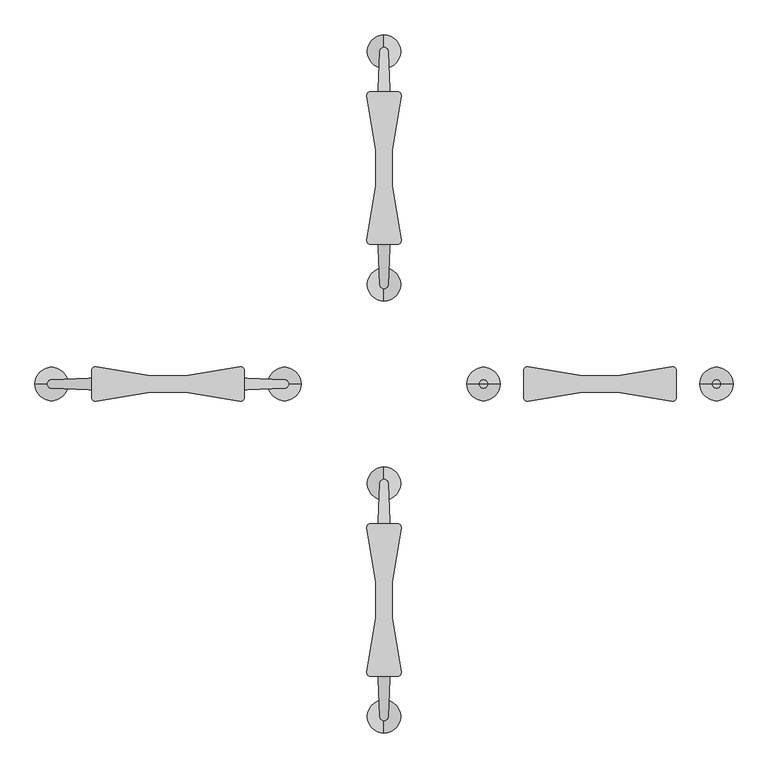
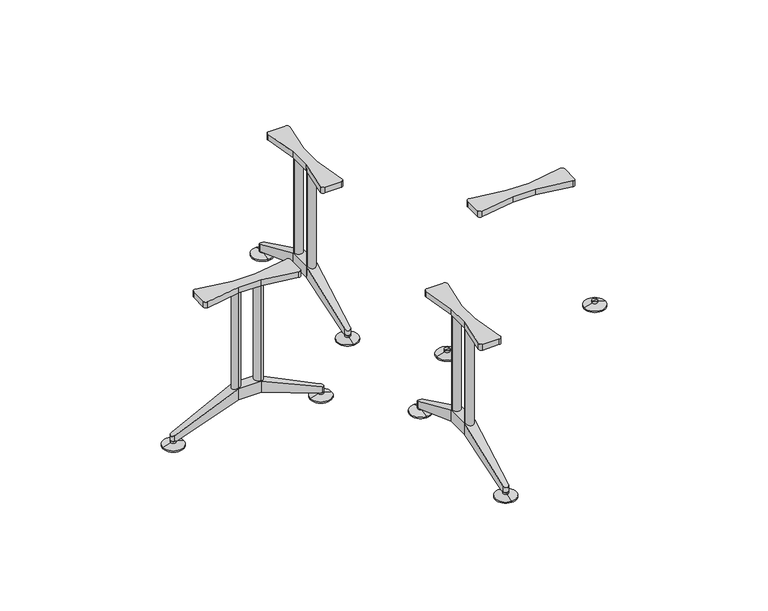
"""IFC4 building model written with IfcOpenShell, lengths in millimetres: furniture geometry, Furniture_Wilkhahn_622-45_Logon Circular Table : Logon 622/45_2200D x 730H."""

from ifc_helpers import new_model, si_unit, point, frame, frame_2d, origin, place, context, project, spatial, polyline, circle_curve, ellipse_curve, trimmed, segment, composite_curve, outline, extrude, source, transform, mapped, element, save
from ifc_brep_helpers import plane_surface, cylinder_surface, revolved_surface, advanced_brep


def furniture_99fb2e03(model_context):
    return source(origin(), model_context, "Body", "SolidModel", [
        advanced_brep(
        [(0.0, 1026.4755164, 0.0), (0.0, 1076.4755164, 0.0), (0.0, 976.4755164, 0.0), (0.0, 1076.4755164, 6.0), (0.0, 976.4755164, 6.0), (0.0, 1038.9511544, 17.0), (0.0, 1013.9998784, 17.0), (0.0, 1038.9511544, 27.0), (0.0, 1013.9998784, 27.0), (0.0, 1026.4755164, 27.0)],
        [
            (0, 1),
            (1, 2, circle_curve(frame((0.0, 1026.4755164, 0.0), z_axis=(0.0, 0.0, -1.0), x_axis=(0.0, 1.0, 0.0)), 50.0)),
            (2, 0),
            (2, 1, circle_curve(frame((0.0, 1026.4755164, 0.0), z_axis=(0.0, 0.0, -1.0), x_axis=(0.0, 1.0, 0.0)), 50.0)),
            (1, 3),
            (3, 4, circle_curve(frame((0.0, 1026.4755164, 6.0), z_axis=(0.0, 0.0, -1.0), x_axis=(0.0, 1.0, 0.0)), 50.0)),
            (4, 2),
            (4, 3, circle_curve(frame((0.0, 1026.4755164, 6.0), z_axis=(0.0, 0.0, -1.0), x_axis=(0.0, 1.0, 0.0)), 50.0)),
            (3, 5),
            (5, 6, circle_curve(frame((0.0, 1026.4755164, 17.0), z_axis=(0.0, 0.0, -1.0), x_axis=(0.0, 1.0, 0.0)), 12.475638)),
            (6, 4),
            (6, 5, circle_curve(frame((0.0, 1026.4755164, 17.0), z_axis=(0.0, 0.0, -1.0), x_axis=(0.0, 1.0, 0.0)), 12.475638)),
            (5, 7),
            (7, 8, circle_curve(frame((0.0, 1026.4755164, 27.0), z_axis=(0.0, 0.0, -1.0), x_axis=(0.0, 1.0, 0.0)), 12.475638)),
            (8, 6),
            (8, 7, circle_curve(frame((0.0, 1026.4755164, 27.0), z_axis=(0.0, 0.0, -1.0), x_axis=(0.0, 1.0, 0.0)), 12.475638)),
            (7, 9),
            (9, 8),
        ],
        [
            plane_surface(frame((0.0, 1026.4755164, 0.0), z_axis=(0.0, 0.0, -1.0), x_axis=(0.0, 1.0, 0.0))),
            cylinder_surface(frame((0.0, 1026.4755164, 27.0), z_axis=(0.0, 0.0, -1.0), x_axis=(0.0, 1.0, 0.0)), 50.0),
            revolved_surface(polyline([(0.0, 1038.9511544, 17.0), (0.0, 1076.4755164, 6.0)]), (0.0, 1026.4755164, 27.0), (0.0, 0.0, -1.0)),
            cylinder_surface(frame((0.0, 1026.4755164, 27.0), z_axis=(0.0, 0.0, -1.0), x_axis=(0.0, 1.0, 0.0)), 12.475638),
            plane_surface(frame((0.0, 1026.4755164, 27.0), z_axis=(0.0, 0.0, 1.0), x_axis=(0.0, 1.0, 0.0))),
        ],
        [
            (0, [[1, 2, 3]]),
            (0, [[-3, 4, -1]]),
            (1, [[-2, 5, 6, 7]]),
            (1, [[-4, -7, 8, -5]]),
            (2, [[-6, 9, 10, 11]]),
            (2, [[-8, -11, 12, -9]]),
            (3, [[-10, 13, 14, 15]]),
            (3, [[-12, -15, 16, -13]]),
            (4, [[-14, 17, 18]]),
            (4, [[-16, -18, -17]]),
        ],
    ),
        advanced_brep(
        [(0.0, 375.4267924, 0.0), (0.0, 275.4267924, 0.0), (0.0, 325.4267924, 0.0), (0.0, 375.4267924, 6.0), (0.0, 275.4267924, 6.0), (0.0, 337.9024304, 17.0), (0.0, 312.9511544, 17.0), (0.0, 337.9024304, 27.0), (0.0, 312.9511544, 27.0), (0.0, 325.4267924, 27.0)],
        [
            (0, 1, circle_curve(frame((0.0, 325.4267924, 0.0), z_axis=(0.0, 0.0, -1.0), x_axis=(0.0, -1.0, 0.0)), 50.0)),
            (1, 2),
            (2, 0),
            (1, 0, circle_curve(frame((0.0, 325.4267924, 0.0), z_axis=(0.0, 0.0, -1.0), x_axis=(0.0, -1.0, 0.0)), 50.0)),
            (3, 4, circle_curve(frame((0.0, 325.4267924, 6.0), z_axis=(0.0, 0.0, -1.0), x_axis=(0.0, -1.0, 0.0)), 50.0)),
            (4, 1),
            (0, 3),
            (4, 3, circle_curve(frame((0.0, 325.4267924, 6.0), z_axis=(0.0, 0.0, -1.0), x_axis=(0.0, -1.0, 0.0)), 50.0)),
            (5, 6, circle_curve(frame((0.0, 325.4267924, 17.0), z_axis=(0.0, 0.0, -1.0), x_axis=(0.0, -1.0, 0.0)), 12.475638)),
            (6, 4),
            (3, 5),
            (6, 5, circle_curve(frame((0.0, 325.4267924, 17.0), z_axis=(0.0, 0.0, -1.0), x_axis=(0.0, -1.0, 0.0)), 12.475638)),
            (7, 8, circle_curve(frame((0.0, 325.4267924, 27.0), z_axis=(0.0, 0.0, -1.0), x_axis=(0.0, -1.0, 0.0)), 12.475638)),
            (8, 6),
            (5, 7),
            (8, 7, circle_curve(frame((0.0, 325.4267924, 27.0), z_axis=(0.0, 0.0, -1.0), x_axis=(0.0, -1.0, 0.0)), 12.475638)),
            (9, 8),
            (7, 9),
        ],
        [
            plane_surface(frame((0.0, 325.4267924, 0.0), z_axis=(0.0, 0.0, -1.0), x_axis=(0.0, -1.0, 0.0))),
            cylinder_surface(frame((0.0, 325.4267924, 27.0), z_axis=(0.0, 0.0, 1.0), x_axis=(0.0, -1.0, 0.0)), 50.0),
            revolved_surface(polyline([(0.0, 275.4267924, 6.0), (0.0, 312.9511544, 17.0)]), (0.0, 325.4267924, 27.0), (0.0, 0.0, 1.0)),
            cylinder_surface(frame((0.0, 325.4267924, 27.0), z_axis=(0.0, 0.0, 1.0), x_axis=(0.0, -1.0, 0.0)), 12.475638),
            plane_surface(frame((0.0, 325.4267924, 27.0), z_axis=(0.0, 0.0, 1.0), x_axis=(0.0, -1.0, 0.0))),
        ],
        [
            (0, [[1, 2, 3]]),
            (0, [[4, -3, -2]]),
            (1, [[5, 6, -1, 7]]),
            (1, [[8, -7, -4, -6]]),
            (2, [[9, 10, -5, 11]]),
            (2, [[12, -11, -8, -10]]),
            (3, [[13, 14, -9, 15]]),
            (3, [[16, -15, -12, -14]]),
            (4, [[17, -13, 18]]),
            (4, [[-18, -16, -17]]),
        ],
    ),
        extrude(outline(composite_curve([segment(polyline([(-25.0, 728.9511544), (-51.7160071, 892.0109222)]), True, "CONTINUOUS"), segment(trimmed(circle_curve(frame_2d((-39.8739001, 893.9511544)), 12.0), [point((-51.7160071, 892.0109222))], [point((-39.8739001, 905.9511544))], False, "CARTESIAN"), True, "CONTINUOUS"), segment(polyline([(-39.8739001, 905.9511544), (39.8739001, 905.9511544)]), True, "CONTINUOUS"), segment(trimmed(circle_curve(frame_2d((39.8739001, 893.9511544)), 12.0), [point((39.8739001, 905.9511544))], [point((51.7160071, 892.0109222))], False, "CARTESIAN"), True, "CONTINUOUS"), segment(polyline([(51.7160071, 892.0109222), (25.0, 728.9511544), (25.0, 622.9511544), (51.7160071, 459.8913867)]), True, "CONTINUOUS"), segment(trimmed(circle_curve(frame_2d((39.8739001, 457.9511544)), 12.0), [point((51.7160071, 459.8913867))], [point((39.8739001, 445.9511544))], False, "CARTESIAN"), True, "CONTINUOUS"), segment(polyline([(39.8739001, 445.9511544), (-39.8739001, 445.9511544)]), True, "CONTINUOUS"), segment(trimmed(circle_curve(frame_2d((-39.8739001, 457.9511544)), 12.0), [point((-39.8739001, 445.9511544))], [point((-51.7160071, 459.8913867))], False, "CARTESIAN"), True, "CONTINUOUS"), segment(polyline([(-51.7160071, 459.8913867), (-25.0, 622.9511544), (-25.0, 728.9511544)]), True, "CONTINUOUS")], self_intersect=False)), frame((0.0, 0.0, 675.0), z_axis=(0.0, 0.0, 1.0), x_axis=(1.0, 0.0, 0.0)), (0.0, 0.0, 1.0), 29.0),
        advanced_brep(
        [(25.0, 622.9511544, 140.0), (25.0, 728.9511544, 140.0), (25.0, 728.9511544, 195.0), (25.0, 622.9511544, 195.0), (-25.0, 622.9511544, 195.0), (-25.0, 728.9511544, 195.0), (-25.0, 728.9511544, 140.0), (-25.0, 622.9511544, 140.0), (-13.4930419, 337.9024304, 27.0), (13.4930419, 337.9024304, 27.0), (12.9894205, 325.4267924, 27.0), (0.0, 312.9511544, 27.0), (-12.9894205, 325.4267924, 27.0), (-12.9894205, 325.4267924, 56.4159205), (0.0, 312.9511544, 50.6048844), (12.9894205, 325.4267924, 56.4159205), (-12.9894205, 1026.4755164, 56.4159205), (-12.9894205, 1026.4755164, 27.0), (-13.4930419, 1013.9998784, 27.0), (12.9894205, 1026.4755164, 27.0), (12.9894205, 1026.4755164, 56.4159205), (13.4930419, 1013.9998784, 27.0), (0.0, 1038.9511544, 27.0), (0.0, 1038.9511544, 50.6048844)],
        [
            (0, 1),
            (1, 2),
            (2, 3),
            (3, 0),
            (4, 5),
            (5, 6),
            (6, 7),
            (7, 4),
            (8, 9),
            (9, 10),
            (10, 11, circle_curve(frame((0.0, 325.9511544, 27.0), z_axis=(0.0, 0.0, -1.0), x_axis=(-1.0, 0.0, 0.0)), 13.0)),
            (11, 12, circle_curve(frame((0.0, 325.9511544, 27.0), z_axis=(0.0, 0.0, -1.0), x_axis=(-1.0, 0.0, 0.0)), 13.0)),
            (12, 8),
            (3, 4),
            (4, 13),
            (13, 14, ellipse_curve(frame((0.0, 325.9511544, 56.6601634), z_axis=(0.0, -0.4222333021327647, 0.9064871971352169), x_axis=(0.0, -0.906487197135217, -0.4222333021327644)), 14.341074, 13.0)),
            (14, 15, ellipse_curve(frame((0.0, 325.9511544, 56.6601634), z_axis=(0.0, -0.4222333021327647, 0.9064871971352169), x_axis=(0.0, -0.906487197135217, -0.4222333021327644)), 14.341074, 13.0)),
            (15, 3),
            (7, 0),
            (0, 9),
            (8, 7),
            (16, 17),
            (17, 18),
            (18, 6),
            (5, 16),
            (19, 20),
            (20, 2),
            (1, 21),
            (21, 19),
            (2, 5),
            (6, 1),
            (19, 22, circle_curve(frame((0.0, 1025.9511544, 27.0), z_axis=(0.0, 0.0, 1.0), x_axis=(-1.0, 0.0, 0.0)), 13.0)),
            (22, 17, circle_curve(frame((0.0, 1025.9511544, 27.0), z_axis=(0.0, 0.0, 1.0), x_axis=(-1.0, 0.0, 0.0)), 13.0)),
            (16, 23, ellipse_curve(frame((0.0, 1025.9511544, 56.6601634), z_axis=(0.0, -0.4222333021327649, -0.9064871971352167), x_axis=(0.0, 0.9064871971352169, -0.4222333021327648)), 14.341074, 13.0)),
            (23, 20, ellipse_curve(frame((0.0, 1025.9511544, 56.6601634), z_axis=(0.0, -0.4222333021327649, -0.9064871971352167), x_axis=(0.0, 0.9064871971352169, -0.4222333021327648)), 14.341074, 13.0)),
            (15, 10),
            (13, 12),
            (21, 18),
        ],
        [
            plane_surface(frame((25.0, 329.6976943, 27.0), z_axis=(1.0, 0.0, 0.0), x_axis=(0.0, 1.0, 0.0))),
            plane_surface(frame((-25.0, 329.6976943, 27.0), z_axis=(-1.0, 0.0, 0.0), x_axis=(0.0, -1.0, 0.0))),
            plane_surface(frame((-25.0, 337.9024304, 27.0), z_axis=(0.0, 0.0, -1.0), x_axis=(1.0, 0.0, 0.0))),
            plane_surface(frame((-25.0, 312.9511544, 50.6048844), z_axis=(0.0, -0.4222333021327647, 0.9064871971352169), x_axis=(1.0, 0.0, 0.0))),
            plane_surface(frame((-25.0, 622.9511544, 140.0), z_axis=(0.0, 0.3685226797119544, -0.929618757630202), x_axis=(1.0, 0.0, 0.0))),
            plane_surface(frame((-25.0, 728.9511544, 195.0), z_axis=(-0.9991861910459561, 0.04033553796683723, 0.0), x_axis=(0.0, 0.0, -1.0))),
            plane_surface(frame((12.9894205, 1026.4755164, 195.0), z_axis=(0.9991861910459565, 0.040335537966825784, 0.0), x_axis=(0.0, 0.0, -1.0))),
            plane_surface(frame((-25.0, 622.9511544, 195.0), z_axis=(0.0, 0.0, 1.0), x_axis=(1.0, 0.0, 0.0))),
            plane_surface(frame((-25.0, 728.9511544, 140.0), z_axis=(0.0, 0.0, -1.0), x_axis=(1.0, 0.0, 0.0))),
            cylinder_surface(frame((0.0, 1025.9511544, 0.0), z_axis=(0.0, 0.0, -1.0), x_axis=(-1.0, 0.0, 0.0)), 13.0),
            plane_surface(frame((25.0, 622.9511544, 195.0), z_axis=(0.9991861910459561, -0.04033553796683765, 0.0), x_axis=(0.0, 0.0, -1.0))),
            cylinder_surface(frame((0.0, 325.9511544, -14.190167), z_axis=(0.0, 0.0, -1.0), x_axis=(-1.0, 0.0, 0.0)), 13.0),
            plane_surface(frame((-12.9894205, 325.4267924, 195.0), z_axis=(-0.9991861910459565, -0.04033553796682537, 0.0), x_axis=(0.0, 0.0, -1.0))),
            plane_surface(frame((-25.0, 728.9511544, 195.0), z_axis=(0.0, 0.4222333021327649, 0.9064871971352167), x_axis=(1.0, 0.0, 0.0))),
            plane_surface(frame((-25.0, 1038.9511544, 27.0), z_axis=(0.0, 0.0, -1.0), x_axis=(1.0, 0.0, 0.0))),
            plane_surface(frame((-25.0, 1013.9998784, 27.0), z_axis=(0.0, -0.3685226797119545, -0.929618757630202), x_axis=(1.0, 0.0, 0.0))),
        ],
        [
            (0, [[1, 2, 3, 4]]),
            (1, [[5, 6, 7, 8]]),
            (2, [[9, 10, 11, 12, 13]]),
            (3, [[14, 15, 16, 17, 18]]),
            (4, [[19, 20, -9, 21]]),
            (5, [[22, 23, 24, -6, 25]]),
            (6, [[26, 27, -2, 28, 29]]),
            (7, [[-3, 30, -5, -14]]),
            (8, [[-1, -19, -7, 31]]),
            (9, [[-26, 32, 33, -22, 34, 35]]),
            (10, [[36, -10, -20, -4, -18]]),
            (11, [[-36, -17, -16, 37, -12, -11]]),
            (12, [[-37, -15, -8, -21, -13]]),
            (13, [[-30, -27, -35, -34, -25]]),
            (14, [[38, -23, -33, -32, -29]]),
            (15, [[-31, -24, -38, -28]]),
        ],
    ),
        extrude(outline(composite_curve([segment(trimmed(circle_curve(frame_2d((0.0, 728.9511544)), 20.0), [point((20.0, 728.9511544))], [point((-20.0, 728.9511544))], False, "CARTESIAN"), True, "CONTINUOUS"), segment(trimmed(circle_curve(frame_2d((0.0, 728.9511544)), 20.0), [point((-20.0, 728.9511544))], [point((20.0, 728.9511544))], False, "CARTESIAN"), True, "CONTINUOUS")], self_intersect=False)), frame((0.0, 0.0, 140.0), z_axis=(0.0, 0.0, 1.0), x_axis=(1.0, 0.0, 0.0)), (0.0, 0.0, 1.0), 535.0),
        extrude(outline(composite_curve([segment(trimmed(circle_curve(frame_2d((0.0, 622.9511544)), 20.0), [point((20.0, 622.9511544))], [point((-20.0, 622.9511544))], False, "CARTESIAN"), True, "CONTINUOUS"), segment(trimmed(circle_curve(frame_2d((0.0, 622.9511544)), 20.0), [point((-20.0, 622.9511544))], [point((20.0, 622.9511544))], False, "CARTESIAN"), True, "CONTINUOUS")], self_intersect=False)), frame((0.0, 0.0, 140.0), z_axis=(0.0, 0.0, 1.0), x_axis=(1.0, 0.0, 0.0)), (0.0, 0.0, 1.0), 535.0),
        advanced_brep(
        [(0.0, -974.5732076, 0.0), (0.0, -924.5732076, 0.0), (0.0, -1024.5732076, 0.0), (0.0, -924.5732076, 6.0), (0.0, -1024.5732076, 6.0), (0.0, -962.0975696, 17.0), (0.0, -987.0488456, 17.0), (0.0, -962.0975696, 27.0), (0.0, -987.0488456, 27.0), (0.0, -974.5732076, 27.0)],
        [
            (0, 1),
            (1, 2, circle_curve(frame((0.0, -974.5732076, 0.0), z_axis=(0.0, 0.0, -1.0), x_axis=(0.0, -1.0, 0.0)), 50.0)),
            (2, 0),
            (2, 1, circle_curve(frame((0.0, -974.5732076, 0.0), z_axis=(0.0, 0.0, -1.0), x_axis=(0.0, -1.0, 0.0)), 50.0)),
            (1, 3),
            (3, 4, circle_curve(frame((0.0, -974.5732076, 6.0), z_axis=(0.0, 0.0, -1.0), x_axis=(0.0, -1.0, 0.0)), 50.0)),
            (4, 2),
            (4, 3, circle_curve(frame((0.0, -974.5732076, 6.0), z_axis=(0.0, 0.0, -1.0), x_axis=(0.0, -1.0, 0.0)), 50.0)),
            (3, 5),
            (5, 6, circle_curve(frame((0.0, -974.5732076, 17.0), z_axis=(0.0, 0.0, -1.0), x_axis=(0.0, -1.0, 0.0)), 12.475638)),
            (6, 4),
            (6, 5, circle_curve(frame((0.0, -974.5732076, 17.0), z_axis=(0.0, 0.0, -1.0), x_axis=(0.0, -1.0, 0.0)), 12.475638)),
            (5, 7),
            (7, 8, circle_curve(frame((0.0, -974.5732076, 27.0), z_axis=(0.0, 0.0, -1.0), x_axis=(0.0, -1.0, 0.0)), 12.475638)),
            (8, 6),
            (8, 7, circle_curve(frame((0.0, -974.5732076, 27.0), z_axis=(0.0, 0.0, -1.0), x_axis=(0.0, -1.0, 0.0)), 12.475638)),
            (7, 9),
            (9, 8),
        ],
        [
            plane_surface(frame((0.0, -974.5732076, 0.0), z_axis=(0.0, 0.0, -1.0), x_axis=(0.0, -1.0, 0.0))),
            cylinder_surface(frame((0.0, -974.5732076, 27.0), z_axis=(0.0, 0.0, -1.0), x_axis=(0.0, -1.0, 0.0)), 50.0),
            revolved_surface(polyline([(0.0, -987.0488456, 17.0), (0.0, -1024.5732076, 6.0)]), (0.0, -974.5732076, 27.0), (0.0, 0.0, -1.0)),
            cylinder_surface(frame((0.0, -974.5732076, 27.0), z_axis=(0.0, 0.0, -1.0), x_axis=(0.0, -1.0, 0.0)), 12.475638),
            plane_surface(frame((0.0, -974.5732076, 27.0), z_axis=(0.0, 0.0, 1.0), x_axis=(0.0, -1.0, 0.0))),
        ],
        [
            (0, [[1, 2, 3]]),
            (0, [[-3, 4, -1]]),
            (1, [[5, 6, 7, -2]]),
            (1, [[-7, 8, -5, -4]]),
            (2, [[9, 10, 11, -6]]),
            (2, [[-11, 12, -9, -8]]),
            (3, [[13, 14, 15, -10]]),
            (3, [[-15, 16, -13, -12]]),
            (4, [[17, 18, -14]]),
            (4, [[-18, -17, -16]]),
        ],
    ),
        advanced_brep(
        [(0.0, -323.5244836, 0.0), (0.0, -273.5244836, 0.0), (0.0, -223.5244836, 0.0), (0.0, -323.5244836, 6.0), (0.0, -223.5244836, 6.0), (0.0, -286.0001216, 17.0), (0.0, -261.0488456, 17.0), (0.0, -286.0001216, 27.0), (0.0, -261.0488456, 27.0), (0.0, -273.5244836, 27.0)],
        [
            (0, 1),
            (1, 2),
            (2, 0, circle_curve(frame((0.0, -273.5244836, 0.0), z_axis=(0.0, 0.0, -1.0), x_axis=(0.0, 1.0, 0.0)), 50.0)),
            (0, 2, circle_curve(frame((0.0, -273.5244836, 0.0), z_axis=(0.0, 0.0, -1.0), x_axis=(0.0, 1.0, 0.0)), 50.0)),
            (3, 0),
            (2, 4),
            (4, 3, circle_curve(frame((0.0, -273.5244836, 6.0), z_axis=(0.0, 0.0, -1.0), x_axis=(0.0, 1.0, 0.0)), 50.0)),
            (3, 4, circle_curve(frame((0.0, -273.5244836, 6.0), z_axis=(0.0, 0.0, -1.0), x_axis=(0.0, 1.0, 0.0)), 50.0)),
            (5, 3),
            (4, 6),
            (6, 5, circle_curve(frame((0.0, -273.5244836, 17.0), z_axis=(0.0, 0.0, -1.0), x_axis=(0.0, 1.0, 0.0)), 12.475638)),
            (5, 6, circle_curve(frame((0.0, -273.5244836, 17.0), z_axis=(0.0, 0.0, -1.0), x_axis=(0.0, 1.0, 0.0)), 12.475638)),
            (7, 5),
            (6, 8),
            (8, 7, circle_curve(frame((0.0, -273.5244836, 27.0), z_axis=(0.0, 0.0, -1.0), x_axis=(0.0, 1.0, 0.0)), 12.475638)),
            (7, 8, circle_curve(frame((0.0, -273.5244836, 27.0), z_axis=(0.0, 0.0, -1.0), x_axis=(0.0, 1.0, 0.0)), 12.475638)),
            (9, 7),
            (8, 9),
        ],
        [
            plane_surface(frame((0.0, -273.5244836, 0.0), z_axis=(0.0, 0.0, -1.0), x_axis=(0.0, 1.0, 0.0))),
            cylinder_surface(frame((0.0, -273.5244836, 27.0), z_axis=(0.0, 0.0, 1.0), x_axis=(0.0, 1.0, 0.0)), 50.0),
            revolved_surface(polyline([(0.0, -223.5244836, 6.0), (0.0, -261.0488456, 17.0)]), (0.0, -273.5244836, 27.0), (0.0, 0.0, 1.0)),
            cylinder_surface(frame((0.0, -273.5244836, 27.0), z_axis=(0.0, 0.0, 1.0), x_axis=(0.0, 1.0, 0.0)), 12.475638),
            plane_surface(frame((0.0, -273.5244836, 27.0), z_axis=(0.0, 0.0, 1.0), x_axis=(0.0, 1.0, 0.0))),
        ],
        [
            (0, [[1, 2, 3]]),
            (0, [[-2, -1, 4]]),
            (1, [[5, -3, 6, 7]]),
            (1, [[-6, -4, -5, 8]]),
            (2, [[9, -7, 10, 11]]),
            (2, [[-10, -8, -9, 12]]),
            (3, [[13, -11, 14, 15]]),
            (3, [[-14, -12, -13, 16]]),
            (4, [[17, -15, 18]]),
            (4, [[-18, -16, -17]]),
        ],
    ),
        extrude(outline(composite_curve([segment(polyline([(-25.0, -677.0488456), (-25.0, -571.0488456), (-51.7160071, -407.9890778)]), True, "CONTINUOUS"), segment(trimmed(circle_curve(frame_2d((-39.8739001, -406.0488456)), 12.0), [point((-51.7160071, -407.9890778))], [point((-39.8739001, -394.0488456))], False, "CARTESIAN"), True, "CONTINUOUS"), segment(polyline([(-39.8739001, -394.0488456), (39.8739001, -394.0488456)]), True, "CONTINUOUS"), segment(trimmed(circle_curve(frame_2d((39.8739001, -406.0488456)), 12.0), [point((39.8739001, -394.0488456))], [point((51.7160071, -407.9890778))], False, "CARTESIAN"), True, "CONTINUOUS"), segment(polyline([(51.7160071, -407.9890778), (25.0, -571.0488456), (25.0, -677.0488456), (51.7160071, -840.1086133)]), True, "CONTINUOUS"), segment(trimmed(circle_curve(frame_2d((39.8739001, -842.0488456)), 12.0), [point((51.7160071, -840.1086133))], [point((39.8739001, -854.0488456))], False, "CARTESIAN"), True, "CONTINUOUS"), segment(polyline([(39.8739001, -854.0488456), (-39.8739001, -854.0488456)]), True, "CONTINUOUS"), segment(trimmed(circle_curve(frame_2d((-39.8739001, -842.0488456)), 12.0), [point((-39.8739001, -854.0488456))], [point((-51.7160071, -840.1086133))], False, "CARTESIAN"), True, "CONTINUOUS"), segment(polyline([(-51.7160071, -840.1086133), (-25.0, -677.0488456)]), True, "CONTINUOUS")], self_intersect=False)), frame((0.0, 0.0, 675.0), z_axis=(0.0, 0.0, 1.0), x_axis=(1.0, 0.0, 0.0)), (0.0, 0.0, 1.0), 29.0),
        advanced_brep(
        [(25.0, -571.0488456, 140.0), (25.0, -571.0488456, 195.0), (25.0, -677.0488456, 195.0), (25.0, -677.0488456, 140.0), (-25.0, -571.0488456, 195.0), (-25.0, -571.0488456, 140.0), (-25.0, -677.0488456, 140.0), (-25.0, -677.0488456, 195.0), (-13.4930419, -286.0001216, 27.0), (-12.9894205, -273.5244836, 27.0), (0.0, -261.0488456, 27.0), (12.9894205, -273.5244836, 27.0), (13.4930419, -286.0001216, 27.0), (12.9894205, -273.5244836, 56.4159205), (0.0, -261.0488456, 50.6048844), (-12.9894205, -273.5244836, 56.4159205), (-12.9894205, -974.5732076, 56.4159205), (-13.4930419, -962.0975696, 27.0), (-12.9894205, -974.5732076, 27.0), (12.9894205, -974.5732076, 27.0), (13.4930419, -962.0975696, 27.0), (12.9894205, -974.5732076, 56.4159205), (0.0, -987.0488456, 50.6048844), (0.0, -987.0488456, 27.0)],
        [
            (0, 1),
            (1, 2),
            (2, 3),
            (3, 0),
            (4, 5),
            (5, 6),
            (6, 7),
            (7, 4),
            (8, 9),
            (9, 10, circle_curve(frame((0.0, -274.0488456, 27.0), z_axis=(0.0, 0.0, -1.0), x_axis=(-1.0, 0.0, 0.0)), 13.0)),
            (10, 11, circle_curve(frame((0.0, -274.0488456, 27.0), z_axis=(0.0, 0.0, -1.0), x_axis=(-1.0, 0.0, 0.0)), 13.0)),
            (11, 12),
            (12, 8),
            (1, 13),
            (13, 14, ellipse_curve(frame((0.0, -274.0488456, 56.6601634), z_axis=(0.0, 0.4222333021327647, 0.9064871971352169), x_axis=(0.0, 0.906487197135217, -0.4222333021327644)), 14.341074, 13.0)),
            (14, 15, ellipse_curve(frame((0.0, -274.0488456, 56.6601634), z_axis=(0.0, 0.4222333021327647, 0.9064871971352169), x_axis=(0.0, 0.906487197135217, -0.4222333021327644)), 14.341074, 13.0)),
            (15, 4),
            (4, 1),
            (5, 8),
            (12, 0),
            (0, 5),
            (16, 7),
            (6, 17),
            (17, 18),
            (18, 16),
            (19, 20),
            (20, 3),
            (2, 21),
            (21, 19),
            (7, 2),
            (3, 6),
            (21, 22, ellipse_curve(frame((0.0, -974.0488456, 56.6601634), z_axis=(0.0, 0.4222333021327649, -0.9064871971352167), x_axis=(0.0, -0.9064871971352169, -0.4222333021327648)), 14.341074, 13.0)),
            (22, 16, ellipse_curve(frame((0.0, -974.0488456, 56.6601634), z_axis=(0.0, 0.4222333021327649, -0.9064871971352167), x_axis=(0.0, -0.9064871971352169, -0.4222333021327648)), 14.341074, 13.0)),
            (18, 23, circle_curve(frame((0.0, -974.0488456, 27.0), z_axis=(0.0, 0.0, 1.0), x_axis=(-1.0, 0.0, 0.0)), 13.0)),
            (23, 19, circle_curve(frame((0.0, -974.0488456, 27.0), z_axis=(0.0, 0.0, 1.0), x_axis=(-1.0, 0.0, 0.0)), 13.0)),
            (11, 13),
            (9, 15),
            (17, 20),
        ],
        [
            plane_surface(frame((25.0, -277.7953854, 27.0), z_axis=(1.0, 0.0, 0.0), x_axis=(0.0, -1.0, 0.0))),
            plane_surface(frame((-25.0, -277.7953854, 27.0), z_axis=(-1.0, 0.0, 0.0), x_axis=(0.0, 1.0, 0.0))),
            plane_surface(frame((-25.0, -286.0001216, 27.0), z_axis=(0.0, 0.0, -1.0), x_axis=(1.0, 0.0, 0.0))),
            plane_surface(frame((-25.0, -261.0488456, 50.6048844), z_axis=(0.0, 0.4222333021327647, 0.9064871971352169), x_axis=(1.0, 0.0, 0.0))),
            plane_surface(frame((-25.0, -571.0488456, 140.0), z_axis=(0.0, -0.3685226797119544, -0.929618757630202), x_axis=(1.0, 0.0, 0.0))),
            plane_surface(frame((-25.0, -677.0488456, 195.0), z_axis=(-0.9991861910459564, -0.040335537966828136, 0.0), x_axis=(0.0, 0.0, -1.0))),
            plane_surface(frame((12.9894205, -974.5732076, 195.0), z_axis=(0.9991861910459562, -0.04033553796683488, 0.0), x_axis=(0.0, 0.0, -1.0))),
            plane_surface(frame((-25.0, -571.0488456, 195.0), z_axis=(0.0, 0.0, 1.0), x_axis=(1.0, 0.0, 0.0))),
            plane_surface(frame((-25.0, -677.0488456, 140.0), z_axis=(0.0, 0.0, -1.0), x_axis=(1.0, 0.0, 0.0))),
            cylinder_surface(frame((0.0, -974.0488456, 0.0), z_axis=(0.0, 0.0, -1.0), x_axis=(-1.0, 0.0, 0.0)), 13.0),
            plane_surface(frame((25.0, -571.0488456, 195.0), z_axis=(0.9991861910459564, 0.04033553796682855, 0.0), x_axis=(0.0, 0.0, -1.0))),
            cylinder_surface(frame((0.0, -274.0488456, -14.190167), z_axis=(0.0, 0.0, -1.0), x_axis=(-1.0, 0.0, 0.0)), 13.0),
            plane_surface(frame((-12.9894205, -273.5244836, 195.0), z_axis=(-0.9991861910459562, 0.040335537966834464, 0.0), x_axis=(0.0, 0.0, -1.0))),
            plane_surface(frame((-25.0, -677.0488456, 195.0), z_axis=(0.0, -0.4222333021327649, 0.9064871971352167), x_axis=(1.0, 0.0, 0.0))),
            plane_surface(frame((-25.0, -987.0488456, 27.0), z_axis=(0.0, 0.0, -1.0), x_axis=(1.0, 0.0, 0.0))),
            plane_surface(frame((-25.0, -962.0975696, 27.0), z_axis=(0.0, 0.3685226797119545, -0.929618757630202), x_axis=(1.0, 0.0, 0.0))),
        ],
        [
            (0, [[1, 2, 3, 4]]),
            (1, [[5, 6, 7, 8]]),
            (2, [[9, 10, 11, 12, 13]]),
            (3, [[14, 15, 16, 17, 18]]),
            (4, [[19, -13, 20, 21]]),
            (5, [[22, -7, 23, 24, 25]]),
            (6, [[26, 27, -3, 28, 29]]),
            (7, [[-18, -8, 30, -2]]),
            (8, [[31, -6, -21, -4]]),
            (9, [[32, 33, -25, 34, 35, -29]]),
            (10, [[-14, -1, -20, -12, 36]]),
            (11, [[-11, -10, 37, -16, -15, -36]]),
            (12, [[-9, -19, -5, -17, -37]]),
            (13, [[-22, -33, -32, -28, -30]]),
            (14, [[-26, -35, -34, -24, 38]]),
            (15, [[-27, -38, -23, -31]]),
        ],
    ),
        extrude(outline(composite_curve([segment(trimmed(circle_curve(frame_2d((0.0, -677.0488456)), 20.0), [point((20.0, -677.0488456))], [point((-20.0, -677.0488456))], False, "CARTESIAN"), True, "CONTINUOUS"), segment(trimmed(circle_curve(frame_2d((0.0, -677.0488456)), 20.0), [point((-20.0, -677.0488456))], [point((20.0, -677.0488456))], False, "CARTESIAN"), True, "CONTINUOUS")], self_intersect=False)), frame((0.0, 0.0, 140.0), z_axis=(0.0, 0.0, 1.0), x_axis=(1.0, 0.0, 0.0)), (0.0, 0.0, 1.0), 535.0),
        extrude(outline(composite_curve([segment(trimmed(circle_curve(frame_2d((0.0, -571.0488456)), 20.0), [point((20.0, -571.0488456))], [point((-20.0, -571.0488456))], False, "CARTESIAN"), True, "CONTINUOUS"), segment(trimmed(circle_curve(frame_2d((0.0, -571.0488456)), 20.0), [point((-20.0, -571.0488456))], [point((20.0, -571.0488456))], False, "CARTESIAN"), True, "CONTINUOUS")], self_intersect=False)), frame((0.0, 0.0, 140.0), z_axis=(0.0, 0.0, 1.0), x_axis=(1.0, 0.0, 0.0)), (0.0, 0.0, 1.0), 535.0),
        advanced_brep(
        [(-1000.524362, 25.9511544, 0.0), (-950.524362, 25.9511544, 0.0), (-1050.524362, 25.9511544, 0.0), (-950.524362, 25.9511544, 6.0), (-1050.524362, 25.9511544, 6.0), (-988.048724, 25.9511544, 17.0), (-1013.0, 25.9511544, 17.0), (-988.048724, 25.9511544, 27.0), (-1013.0, 25.9511544, 27.0), (-1000.524362, 25.9511544, 27.0)],
        [
            (0, 1),
            (1, 2, circle_curve(frame((-1000.524362, 25.9511544, 0.0), z_axis=(0.0, 0.0, -1.0), x_axis=(-1.0, 0.0, 0.0)), 50.0)),
            (2, 0),
            (2, 1, circle_curve(frame((-1000.524362, 25.9511544, 0.0), z_axis=(0.0, 0.0, -1.0), x_axis=(-1.0, 0.0, 0.0)), 50.0)),
            (1, 3),
            (3, 4, circle_curve(frame((-1000.524362, 25.9511544, 6.0), z_axis=(0.0, 0.0, -1.0), x_axis=(-1.0, 0.0, 0.0)), 50.0)),
            (4, 2),
            (4, 3, circle_curve(frame((-1000.524362, 25.9511544, 6.0), z_axis=(0.0, 0.0, -1.0), x_axis=(-1.0, 0.0, 0.0)), 50.0)),
            (3, 5),
            (5, 6, circle_curve(frame((-1000.524362, 25.9511544, 17.0), z_axis=(0.0, 0.0, -1.0), x_axis=(-1.0, 0.0, 0.0)), 12.475638)),
            (6, 4),
            (6, 5, circle_curve(frame((-1000.524362, 25.9511544, 17.0), z_axis=(0.0, 0.0, -1.0), x_axis=(-1.0, 0.0, 0.0)), 12.475638)),
            (5, 7),
            (7, 8, circle_curve(frame((-1000.524362, 25.9511544, 27.0), z_axis=(0.0, 0.0, -1.0), x_axis=(-1.0, 0.0, 0.0)), 12.475638)),
            (8, 6),
            (8, 7, circle_curve(frame((-1000.524362, 25.9511544, 27.0), z_axis=(0.0, 0.0, -1.0), x_axis=(-1.0, 0.0, 0.0)), 12.475638)),
            (7, 9),
            (9, 8),
        ],
        [
            plane_surface(frame((-1000.524362, 25.9511544, 0.0), z_axis=(0.0, 0.0, -1.0), x_axis=(-1.0, 0.0, 0.0))),
            cylinder_surface(frame((-1000.524362, 25.9511544, 27.0), z_axis=(0.0, 0.0, -1.0), x_axis=(-1.0, 0.0, 0.0)), 50.0),
            revolved_surface(polyline([(-1013.0, 25.9511544, 17.0), (-1050.524362, 25.9511544, 6.0)]), (-1000.524362, 25.9511544, 27.0), (0.0, 0.0, -1.0)),
            cylinder_surface(frame((-1000.524362, 25.9511544, 27.0), z_axis=(0.0, 0.0, -1.0), x_axis=(-1.0, 0.0, 0.0)), 12.475638),
            plane_surface(frame((-1000.524362, 25.9511544, 27.0), z_axis=(0.0, 0.0, 1.0), x_axis=(-1.0, 0.0, 0.0))),
        ],
        [
            (0, [[1, 2, 3]]),
            (0, [[-3, 4, -1]]),
            (1, [[5, 6, 7, -2]]),
            (1, [[-7, 8, -5, -4]]),
            (2, [[9, 10, 11, -6]]),
            (2, [[-11, 12, -9, -8]]),
            (3, [[13, 14, 15, -10]]),
            (3, [[-15, 16, -13, -12]]),
            (4, [[17, 18, -14]]),
            (4, [[-18, -17, -16]]),
        ],
    ),
        advanced_brep(
        [(-349.475638, 25.9511544, 0.0), (-299.475638, 25.9511544, 0.0), (-249.475638, 25.9511544, 0.0), (-349.475638, 25.9511544, 6.0), (-249.475638, 25.9511544, 6.0), (-311.951276, 25.9511544, 17.0), (-287.0, 25.9511544, 17.0), (-311.951276, 25.9511544, 27.0), (-287.0, 25.9511544, 27.0), (-299.475638, 25.9511544, 27.0)],
        [
            (0, 1),
            (1, 2),
            (2, 0, circle_curve(frame((-299.475638, 25.9511544, 0.0), z_axis=(0.0, 0.0, -1.0), x_axis=(1.0, 0.0, 0.0)), 50.0)),
            (0, 2, circle_curve(frame((-299.475638, 25.9511544, 0.0), z_axis=(0.0, 0.0, -1.0), x_axis=(1.0, 0.0, 0.0)), 50.0)),
            (3, 0),
            (2, 4),
            (4, 3, circle_curve(frame((-299.475638, 25.9511544, 6.0), z_axis=(0.0, 0.0, -1.0), x_axis=(1.0, 0.0, 0.0)), 50.0)),
            (3, 4, circle_curve(frame((-299.475638, 25.9511544, 6.0), z_axis=(0.0, 0.0, -1.0), x_axis=(1.0, 0.0, 0.0)), 50.0)),
            (5, 3),
            (4, 6),
            (6, 5, circle_curve(frame((-299.475638, 25.9511544, 17.0), z_axis=(0.0, 0.0, -1.0), x_axis=(1.0, 0.0, 0.0)), 12.475638)),
            (5, 6, circle_curve(frame((-299.475638, 25.9511544, 17.0), z_axis=(0.0, 0.0, -1.0), x_axis=(1.0, 0.0, 0.0)), 12.475638)),
            (7, 5),
            (6, 8),
            (8, 7, circle_curve(frame((-299.475638, 25.9511544, 27.0), z_axis=(0.0, 0.0, -1.0), x_axis=(1.0, 0.0, 0.0)), 12.475638)),
            (7, 8, circle_curve(frame((-299.475638, 25.9511544, 27.0), z_axis=(0.0, 0.0, -1.0), x_axis=(1.0, 0.0, 0.0)), 12.475638)),
            (9, 7),
            (8, 9),
        ],
        [
            plane_surface(frame((-299.475638, 25.9511544, 0.0), z_axis=(0.0, 0.0, -1.0), x_axis=(1.0, 0.0, 0.0))),
            cylinder_surface(frame((-299.475638, 25.9511544, 27.0), z_axis=(0.0, 0.0, 1.0), x_axis=(1.0, 0.0, 0.0)), 50.0),
            revolved_surface(polyline([(-249.475638, 25.9511544, 6.0), (-287.0, 25.9511544, 17.0)]), (-299.475638, 25.9511544, 27.0), (0.0, 0.0, 1.0)),
            cylinder_surface(frame((-299.475638, 25.9511544, 27.0), z_axis=(0.0, 0.0, 1.0), x_axis=(1.0, 0.0, 0.0)), 12.475638),
            plane_surface(frame((-299.475638, 25.9511544, 27.0), z_axis=(0.0, 0.0, 1.0), x_axis=(1.0, 0.0, 0.0))),
        ],
        [
            (0, [[1, 2, 3]]),
            (0, [[-2, -1, 4]]),
            (1, [[5, -3, 6, 7]]),
            (1, [[-6, -4, -5, 8]]),
            (2, [[9, -7, 10, 11]]),
            (2, [[-10, -8, -9, 12]]),
            (3, [[13, -11, 14, 15]]),
            (3, [[-14, -12, -13, 16]]),
            (4, [[17, -15, 18]]),
            (4, [[-18, -16, -17]]),
        ],
    ),
        extrude(outline(composite_curve([segment(polyline([(-703.0, 50.9511544), (-597.0, 50.9511544), (-433.9402322, 77.6671616)]), True, "CONTINUOUS"), segment(trimmed(circle_curve(frame_2d((-432.0, 65.8250546)), 12.0), [point((-433.9402322, 77.6671616))], [point((-420.0, 65.8250546))], False, "CARTESIAN"), True, "CONTINUOUS"), segment(polyline([(-420.0, 65.8250546), (-420.0, -13.9227457)]), True, "CONTINUOUS"), segment(trimmed(circle_curve(frame_2d((-432.0, -13.9227457)), 12.0), [point((-420.0, -13.9227457))], [point((-433.9402322, -25.7648527))], False, "CARTESIAN"), True, "CONTINUOUS"), segment(polyline([(-433.9402322, -25.7648527), (-597.0, 0.9511544), (-703.0, 0.9511544), (-866.0597678, -25.7648527)]), True, "CONTINUOUS"), segment(trimmed(circle_curve(frame_2d((-868.0, -13.9227457)), 12.0), [point((-866.0597678, -25.7648527))], [point((-880.0, -13.9227457))], False, "CARTESIAN"), True, "CONTINUOUS"), segment(polyline([(-880.0, -13.9227457), (-880.0, 65.8250546)]), True, "CONTINUOUS"), segment(trimmed(circle_curve(frame_2d((-868.0, 65.8250546)), 12.0), [point((-880.0, 65.8250546))], [point((-866.0597678, 77.6671616))], False, "CARTESIAN"), True, "CONTINUOUS"), segment(polyline([(-866.0597678, 77.6671616), (-703.0, 50.9511544)]), True, "CONTINUOUS")], self_intersect=False)), frame((0.0, 0.0, 675.0), z_axis=(0.0, 0.0, 1.0), x_axis=(1.0, 0.0, 0.0)), (0.0, 0.0, 1.0), 29.0),
        advanced_brep(
        [(-597.0, 0.9511544, 140.0), (-597.0, 0.9511544, 195.0), (-703.0, 0.9511544, 195.0), (-703.0, 0.9511544, 140.0), (-597.0, 50.9511544, 195.0), (-597.0, 50.9511544, 140.0), (-703.0, 50.9511544, 140.0), (-703.0, 50.9511544, 195.0), (-311.951276, 39.4441963, 27.0), (-299.475638, 38.9405749, 27.0), (-287.0, 25.9511544, 27.0), (-299.475638, 12.9617339, 27.0), (-311.951276, 12.4581125, 27.0), (-299.475638, 12.9617339, 56.4159205), (-287.0, 25.9511544, 50.6048844), (-299.475638, 38.9405749, 56.4159205), (-1000.524362, 38.9405749, 56.4159205), (-988.048724, 39.4441963, 27.0), (-1000.524362, 38.9405749, 27.0), (-1000.524362, 12.9617339, 27.0), (-988.048724, 12.4581125, 27.0), (-1000.524362, 12.9617339, 56.4159205), (-1013.0, 25.9511544, 50.6048844), (-1013.0, 25.9511544, 27.0)],
        [
            (0, 1),
            (1, 2),
            (2, 3),
            (3, 0),
            (4, 5),
            (5, 6),
            (6, 7),
            (7, 4),
            (8, 9),
            (9, 10, circle_curve(frame((-300.0, 25.9511544, 27.0), z_axis=(0.0, 0.0, -1.0), x_axis=(0.0, 1.0, 0.0)), 13.0)),
            (10, 11, circle_curve(frame((-300.0, 25.9511544, 27.0), z_axis=(0.0, 0.0, -1.0), x_axis=(0.0, 1.0, 0.0)), 13.0)),
            (11, 12),
            (12, 8),
            (1, 13),
            (13, 14, ellipse_curve(frame((-300.0, 25.9511544, 56.6601634), z_axis=(0.4222333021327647, 0.0, 0.9064871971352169), x_axis=(0.906487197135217, 0.0, -0.4222333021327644)), 14.341074, 13.0)),
            (14, 15, ellipse_curve(frame((-300.0, 25.9511544, 56.6601634), z_axis=(0.4222333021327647, 0.0, 0.9064871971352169), x_axis=(0.906487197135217, 0.0, -0.4222333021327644)), 14.341074, 13.0)),
            (15, 4),
            (4, 1),
            (5, 8),
            (12, 0),
            (0, 5),
            (16, 7),
            (6, 17),
            (17, 18),
            (18, 16),
            (19, 20),
            (20, 3),
            (2, 21),
            (21, 19),
            (7, 2),
            (3, 6),
            (21, 22, ellipse_curve(frame((-1000.0, 25.9511544, 56.6601634), z_axis=(0.4222333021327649, 0.0, -0.9064871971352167), x_axis=(-0.9064871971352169, 0.0, -0.4222333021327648)), 14.341074, 13.0)),
            (22, 16, ellipse_curve(frame((-1000.0, 25.9511544, 56.6601634), z_axis=(0.4222333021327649, 0.0, -0.9064871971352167), x_axis=(-0.9064871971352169, 0.0, -0.4222333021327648)), 14.341074, 13.0)),
            (18, 23, circle_curve(frame((-1000.0, 25.9511544, 27.0), z_axis=(0.0, 0.0, 1.0), x_axis=(0.0, 1.0, 0.0)), 13.0)),
            (23, 19, circle_curve(frame((-1000.0, 25.9511544, 27.0), z_axis=(0.0, 0.0, 1.0), x_axis=(0.0, 1.0, 0.0)), 13.0)),
            (11, 13),
            (9, 15),
            (17, 20),
        ],
        [
            plane_surface(frame((-303.7465398, 0.9511544, 27.0), z_axis=(0.0, -1.0, 0.0), x_axis=(-1.0, 0.0, 0.0))),
            plane_surface(frame((-303.7465398, 50.9511544, 27.0), z_axis=(0.0, 1.0, 0.0), x_axis=(1.0, 0.0, 0.0))),
            plane_surface(frame((-311.951276, 50.9511544, 27.0), z_axis=(0.0, 0.0, -1.0), x_axis=(0.0, -1.0, 0.0))),
            plane_surface(frame((-287.0, 50.9511544, 50.6048844), z_axis=(0.4222333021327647, 0.0, 0.9064871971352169), x_axis=(0.0, -1.0, 0.0))),
            plane_surface(frame((-597.0, 50.9511544, 140.0), z_axis=(-0.3685226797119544, 0.0, -0.929618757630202), x_axis=(0.0, -1.0, 0.0))),
            plane_surface(frame((-703.0, 50.9511544, 195.0), z_axis=(-0.040335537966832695, 0.9991861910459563, 0.0), x_axis=(0.0, 0.0, -1.0))),
            plane_surface(frame((-1000.524362, 12.9617339, 195.0), z_axis=(-0.04033553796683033, -0.9991861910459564, 0.0), x_axis=(0.0, 0.0, -1.0))),
            plane_surface(frame((-597.0, 50.9511544, 195.0), z_axis=(0.0, 0.0, 1.0), x_axis=(0.0, -1.0, 0.0))),
            plane_surface(frame((-703.0, 50.9511544, 140.0), z_axis=(0.0, 0.0, -1.0), x_axis=(0.0, -1.0, 0.0))),
            cylinder_surface(frame((-1000.0, 25.9511544, 0.0), z_axis=(0.0, 0.0, -1.0), x_axis=(0.0, 1.0, 0.0)), 13.0),
            plane_surface(frame((-597.0, 0.9511544, 195.0), z_axis=(0.04033553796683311, -0.9991861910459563, 0.0), x_axis=(0.0, 0.0, -1.0))),
            cylinder_surface(frame((-300.0, 25.9511544, -14.190167), z_axis=(0.0, 0.0, -1.0), x_axis=(0.0, 1.0, 0.0)), 13.0),
            plane_surface(frame((-299.475638, 38.9405749, 195.0), z_axis=(0.04033553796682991, 0.9991861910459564, 0.0), x_axis=(0.0, 0.0, -1.0))),
            plane_surface(frame((-703.0, 50.9511544, 195.0), z_axis=(-0.4222333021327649, 0.0, 0.9064871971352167), x_axis=(0.0, -1.0, 0.0))),
            plane_surface(frame((-1013.0, 50.9511544, 27.0), z_axis=(0.0, 0.0, -1.0), x_axis=(0.0, -1.0, 0.0))),
            plane_surface(frame((-988.048724, 50.9511544, 27.0), z_axis=(0.3685226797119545, 0.0, -0.929618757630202), x_axis=(0.0, -1.0, 0.0))),
        ],
        [
            (0, [[1, 2, 3, 4]]),
            (1, [[5, 6, 7, 8]]),
            (2, [[9, 10, 11, 12, 13]]),
            (3, [[14, 15, 16, 17, 18]]),
            (4, [[19, -13, 20, 21]]),
            (5, [[22, -7, 23, 24, 25]]),
            (6, [[26, 27, -3, 28, 29]]),
            (7, [[-18, -8, 30, -2]]),
            (8, [[31, -6, -21, -4]]),
            (9, [[32, 33, -25, 34, 35, -29]]),
            (10, [[-14, -1, -20, -12, 36]]),
            (11, [[-11, -10, 37, -16, -15, -36]]),
            (12, [[-9, -19, -5, -17, -37]]),
            (13, [[-22, -33, -32, -28, -30]]),
            (14, [[-26, -35, -34, -24, 38]]),
            (15, [[-27, -38, -23, -31]]),
        ],
    ),
        extrude(outline(composite_curve([segment(trimmed(circle_curve(frame_2d((-703.0, 25.9511544)), 20.0), [point((-703.0, 5.9511544))], [point((-703.0, 45.9511544))], False, "CARTESIAN"), True, "CONTINUOUS"), segment(trimmed(circle_curve(frame_2d((-703.0, 25.9511544)), 20.0), [point((-703.0, 45.9511544))], [point((-703.0, 5.9511544))], False, "CARTESIAN"), True, "CONTINUOUS")], self_intersect=False)), frame((0.0, 0.0, 140.0), z_axis=(0.0, 0.0, 1.0), x_axis=(1.0, 0.0, 0.0)), (0.0, 0.0, 1.0), 535.0),
        extrude(outline(composite_curve([segment(trimmed(circle_curve(frame_2d((-597.0, 25.9511544)), 20.0), [point((-597.0, 5.9511544))], [point((-597.0, 45.9511544))], False, "CARTESIAN"), True, "CONTINUOUS"), segment(trimmed(circle_curve(frame_2d((-597.0, 25.9511544)), 20.0), [point((-597.0, 45.9511544))], [point((-597.0, 5.9511544))], False, "CARTESIAN"), True, "CONTINUOUS")], self_intersect=False)), frame((0.0, 0.0, 140.0), z_axis=(0.0, 0.0, 1.0), x_axis=(1.0, 0.0, 0.0)), (0.0, 0.0, 1.0), 535.0),
        advanced_brep(
        [(1000.524362, 25.9511544, 0.0), (1050.524362, 25.9511544, 0.0), (950.524362, 25.9511544, 0.0), (1050.524362, 25.9511544, 6.0), (950.524362, 25.9511544, 6.0), (1013.0, 25.9511544, 17.0), (988.048724, 25.9511544, 17.0), (1013.0, 25.9511544, 27.0), (988.048724, 25.9511544, 27.0), (1000.524362, 25.9511544, 27.0)],
        [
            (0, 1),
            (1, 2, circle_curve(frame((1000.524362, 25.9511544, 0.0), z_axis=(0.0, 0.0, -1.0), x_axis=(1.0, 0.0, 0.0)), 50.0)),
            (2, 0),
            (2, 1, circle_curve(frame((1000.524362, 25.9511544, 0.0), z_axis=(0.0, 0.0, -1.0), x_axis=(1.0, 0.0, 0.0)), 50.0)),
            (1, 3),
            (3, 4, circle_curve(frame((1000.524362, 25.9511544, 6.0), z_axis=(0.0, 0.0, -1.0), x_axis=(1.0, 0.0, 0.0)), 50.0)),
            (4, 2),
            (4, 3, circle_curve(frame((1000.524362, 25.9511544, 6.0), z_axis=(0.0, 0.0, -1.0), x_axis=(1.0, 0.0, 0.0)), 50.0)),
            (3, 5),
            (5, 6, circle_curve(frame((1000.524362, 25.9511544, 17.0), z_axis=(0.0, 0.0, -1.0), x_axis=(1.0, 0.0, 0.0)), 12.475638)),
            (6, 4),
            (6, 5, circle_curve(frame((1000.524362, 25.9511544, 17.0), z_axis=(0.0, 0.0, -1.0), x_axis=(1.0, 0.0, 0.0)), 12.475638)),
            (5, 7),
            (7, 8, circle_curve(frame((1000.524362, 25.9511544, 27.0), z_axis=(0.0, 0.0, -1.0), x_axis=(1.0, 0.0, 0.0)), 12.475638)),
            (8, 6),
            (8, 7, circle_curve(frame((1000.524362, 25.9511544, 27.0), z_axis=(0.0, 0.0, -1.0), x_axis=(1.0, 0.0, 0.0)), 12.475638)),
            (7, 9),
            (9, 8),
        ],
        [
            plane_surface(frame((1000.524362, 25.9511544, 0.0), z_axis=(0.0, 0.0, -1.0), x_axis=(1.0, 0.0, 0.0))),
            cylinder_surface(frame((1000.524362, 25.9511544, 27.0), z_axis=(0.0, 0.0, -1.0), x_axis=(1.0, 0.0, 0.0)), 50.0),
            revolved_surface(polyline([(1013.0, 25.9511544, 17.0), (1050.524362, 25.9511544, 6.0)]), (1000.524362, 25.9511544, 27.0), (0.0, 0.0, -1.0)),
            cylinder_surface(frame((1000.524362, 25.9511544, 27.0), z_axis=(0.0, 0.0, -1.0), x_axis=(1.0, 0.0, 0.0)), 12.475638),
            plane_surface(frame((1000.524362, 25.9511544, 27.0), z_axis=(0.0, 0.0, 1.0), x_axis=(1.0, 0.0, 0.0))),
        ],
        [
            (0, [[1, 2, 3]]),
            (0, [[-3, 4, -1]]),
            (1, [[-2, 5, 6, 7]]),
            (1, [[-4, -7, 8, -5]]),
            (2, [[-6, 9, 10, 11]]),
            (2, [[-8, -11, 12, -9]]),
            (3, [[-10, 13, 14, 15]]),
            (3, [[-12, -15, 16, -13]]),
            (4, [[-14, 17, 18]]),
            (4, [[-16, -18, -17]]),
        ],
    ),
        advanced_brep(
        [(349.475638, 25.9511544, 0.0), (249.475638, 25.9511544, 0.0), (299.475638, 25.9511544, 0.0), (349.475638, 25.9511544, 6.0), (249.475638, 25.9511544, 6.0), (311.951276, 25.9511544, 17.0), (287.0, 25.9511544, 17.0), (311.951276, 25.9511544, 27.0), (287.0, 25.9511544, 27.0), (299.475638, 25.9511544, 27.0)],
        [
            (0, 1, circle_curve(frame((299.475638, 25.9511544, 0.0), z_axis=(0.0, 0.0, -1.0), x_axis=(-1.0, 0.0, 0.0)), 50.0)),
            (1, 2),
            (2, 0),
            (1, 0, circle_curve(frame((299.475638, 25.9511544, 0.0), z_axis=(0.0, 0.0, -1.0), x_axis=(-1.0, 0.0, 0.0)), 50.0)),
            (3, 4, circle_curve(frame((299.475638, 25.9511544, 6.0), z_axis=(0.0, 0.0, -1.0), x_axis=(-1.0, 0.0, 0.0)), 50.0)),
            (4, 1),
            (0, 3),
            (4, 3, circle_curve(frame((299.475638, 25.9511544, 6.0), z_axis=(0.0, 0.0, -1.0), x_axis=(-1.0, 0.0, 0.0)), 50.0)),
            (5, 6, circle_curve(frame((299.475638, 25.9511544, 17.0), z_axis=(0.0, 0.0, -1.0), x_axis=(-1.0, 0.0, 0.0)), 12.475638)),
            (6, 4),
            (3, 5),
            (6, 5, circle_curve(frame((299.475638, 25.9511544, 17.0), z_axis=(0.0, 0.0, -1.0), x_axis=(-1.0, 0.0, 0.0)), 12.475638)),
            (7, 8, circle_curve(frame((299.475638, 25.9511544, 27.0), z_axis=(0.0, 0.0, -1.0), x_axis=(-1.0, 0.0, 0.0)), 12.475638)),
            (8, 6),
            (5, 7),
            (8, 7, circle_curve(frame((299.475638, 25.9511544, 27.0), z_axis=(0.0, 0.0, -1.0), x_axis=(-1.0, 0.0, 0.0)), 12.475638)),
            (9, 8),
            (7, 9),
        ],
        [
            plane_surface(frame((299.475638, 25.9511544, 0.0), z_axis=(0.0, 0.0, -1.0), x_axis=(-1.0, 0.0, 0.0))),
            cylinder_surface(frame((299.475638, 25.9511544, 27.0), z_axis=(0.0, 0.0, 1.0), x_axis=(-1.0, 0.0, 0.0)), 50.0),
            revolved_surface(polyline([(249.475638, 25.9511544, 6.0), (287.0, 25.9511544, 17.0)]), (299.475638, 25.9511544, 27.0), (0.0, 0.0, 1.0)),
            cylinder_surface(frame((299.475638, 25.9511544, 27.0), z_axis=(0.0, 0.0, 1.0), x_axis=(-1.0, 0.0, 0.0)), 12.475638),
            plane_surface(frame((299.475638, 25.9511544, 27.0), z_axis=(0.0, 0.0, 1.0), x_axis=(-1.0, 0.0, 0.0))),
        ],
        [
            (0, [[1, 2, 3]]),
            (0, [[4, -3, -2]]),
            (1, [[5, 6, -1, 7]]),
            (1, [[8, -7, -4, -6]]),
            (2, [[9, 10, -5, 11]]),
            (2, [[12, -11, -8, -10]]),
            (3, [[13, 14, -9, 15]]),
            (3, [[16, -15, -12, -14]]),
            (4, [[17, -13, 18]]),
            (4, [[-18, -16, -17]]),
        ],
    ),
        extrude(outline(composite_curve([segment(polyline([(703.0, 50.9511544), (866.0597678, 77.6671616)]), True, "CONTINUOUS"), segment(trimmed(circle_curve(frame_2d((868.0, 65.8250546)), 12.0), [point((866.0597678, 77.6671616))], [point((880.0, 65.8250546))], False, "CARTESIAN"), True, "CONTINUOUS"), segment(polyline([(880.0, 65.8250546), (880.0, -13.9227457)]), True, "CONTINUOUS"), segment(trimmed(circle_curve(frame_2d((868.0, -13.9227457)), 12.0), [point((880.0, -13.9227457))], [point((866.0597678, -25.7648527))], False, "CARTESIAN"), True, "CONTINUOUS"), segment(polyline([(866.0597678, -25.7648527), (703.0, 0.9511544), (597.0, 0.9511544), (433.9402322, -25.7648527)]), True, "CONTINUOUS"), segment(trimmed(circle_curve(frame_2d((432.0, -13.9227457)), 12.0), [point((433.9402322, -25.7648527))], [point((420.0, -13.9227457))], False, "CARTESIAN"), True, "CONTINUOUS"), segment(polyline([(420.0, -13.9227457), (420.0, 65.8250546)]), True, "CONTINUOUS"), segment(trimmed(circle_curve(frame_2d((432.0, 65.8250546)), 12.0), [point((420.0, 65.8250546))], [point((433.9402322, 77.6671616))], False, "CARTESIAN"), True, "CONTINUOUS"), segment(polyline([(433.9402322, 77.6671616), (597.0, 50.9511544), (703.0, 50.9511544)]), True, "CONTINUOUS")], self_intersect=False)), frame((0.0, 0.0, 675.0), z_axis=(0.0, 0.0, 1.0), x_axis=(1.0, 0.0, 0.0)), (0.0, 0.0, 1.0), 29.0),
    ])


if __name__ == "__main__":
    model = new_model("IFC4")
    model_context = context("Model", 3, world=origin())
    ifc_project = project(units=[si_unit("LENGTHUNIT", "METRE", prefix="MILLI")], contexts=[model_context])
    site = spatial("IfcSite", under=ifc_project)
    building = spatial("IfcBuilding", under=site)
    placement = place(None, origin())
    furniture_shape = furniture_99fb2e03(model_context)
    element("IfcFurniture", 1, ObjectType="Furniture_Wilkhahn_622-45_Logon Circular Table : Logon 622/45_2200D x 730H", at=placement, inside=building, context=model_context, shape_type="MappedRepresentation", body=[
        mapped(furniture_shape, transform((0.0, 0.0, 0.0), x_axis=(1.0, 0.0, 0.0), y_axis=(0.0, 1.0, 0.0), z_axis=(0.0, 0.0, 1.0))),
    ])
    save(model, "model.ifc")
